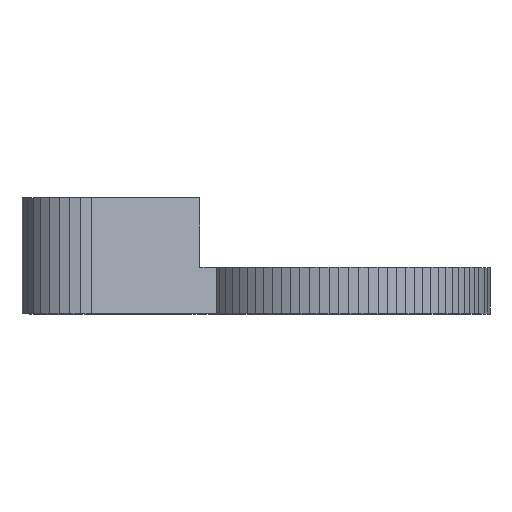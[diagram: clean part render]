
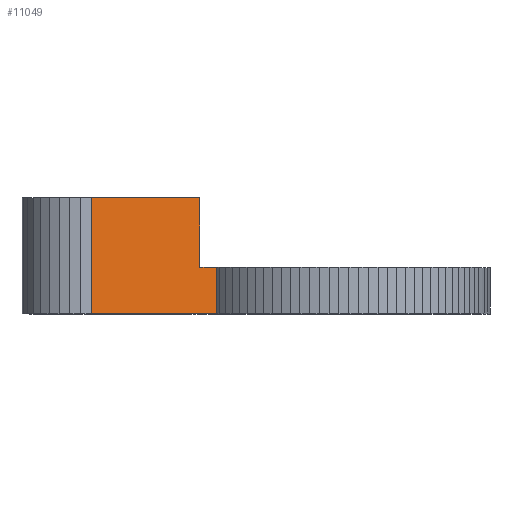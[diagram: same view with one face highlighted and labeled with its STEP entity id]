
A CAD part, top view. The second image highlights one B-rep face of the part: STEP entity #11049.
In plain terms, the highlighted planar face has unit normal (0.246, 0, 0.969).
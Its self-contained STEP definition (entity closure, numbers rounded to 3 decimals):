
#72 = PLANE('',#73);
#73 = AXIS2_PLACEMENT_3D('',#74,#75,#76);
#74 = CARTESIAN_POINT('',(62.285,-55.8,-226.262));
#75 = DIRECTION('',(0.,1.,0.));
#76 = DIRECTION('',(0.,-0.,1.));
#126 = PLANE('',#127);
#127 = AXIS2_PLACEMENT_3D('',#128,#129,#130);
#128 = CARTESIAN_POINT('',(62.285,-45.8,-226.262));
#129 = DIRECTION('',(0.,1.,0.));
#130 = DIRECTION('',(0.,-0.,1.));
#1784 = VERTEX_POINT('',#1785);
#1785 = CARTESIAN_POINT('',(47.058,-45.8,-210.015));
#1798 = PLANE('',#1799);
#1799 = AXIS2_PLACEMENT_3D('',#1800,#1801,#1802);
#1800 = CARTESIAN_POINT('',(47.058,-30.8,-210.015));
#1801 = DIRECTION('',(0.849,0.,-0.528));
#1802 = DIRECTION('',(-0.528,0.,-0.849));
#1809 = EDGE_CURVE('',#1784,#1810,#1812,.T.);
#1810 = VERTEX_POINT('',#1811);
#1811 = CARTESIAN_POINT('',(50.697,-45.8,-210.939));
#1812 = SURFACE_CURVE('',#1813,(#1817,#1824),.PCURVE_S1.);
#1813 = LINE('',#1814,#1815);
#1814 = CARTESIAN_POINT('',(23.738,-45.8,-204.092));
#1815 = VECTOR('',#1816,1.);
#1816 = DIRECTION('',(0.969,0.,-0.246));
#1817 = PCURVE('',#126,#1818);
#1818 = DEFINITIONAL_REPRESENTATION('',(#1819),#1823);
#1819 = LINE('',#1820,#1821);
#1820 = CARTESIAN_POINT('',(22.17,-38.547));
#1821 = VECTOR('',#1822,1.);
#1822 = DIRECTION('',(-0.246,0.969));
#1823 = ( GEOMETRIC_REPRESENTATION_CONTEXT(2) 
PARAMETRIC_REPRESENTATION_CONTEXT() REPRESENTATION_CONTEXT('2D SPACE',''
  ) );
#1824 = PCURVE('',#1825,#1830);
#1825 = PLANE('',#1826);
#1826 = AXIS2_PLACEMENT_3D('',#1827,#1828,#1829);
#1827 = CARTESIAN_POINT('',(23.738,-45.8,-204.092));
#1828 = DIRECTION('',(0.246,0.,0.969));
#1829 = DIRECTION('',(0.969,0.,-0.246));
#1830 = DEFINITIONAL_REPRESENTATION('',(#1831),#1835);
#1831 = LINE('',#1832,#1833);
#1832 = CARTESIAN_POINT('',(0.,0.));
#1833 = VECTOR('',#1834,1.);
#1834 = DIRECTION('',(1.,0.));
#1835 = ( GEOMETRIC_REPRESENTATION_CONTEXT(2) 
PARAMETRIC_REPRESENTATION_CONTEXT() REPRESENTATION_CONTEXT('2D SPACE',''
  ) );
#1853 = PLANE('',#1854);
#1854 = AXIS2_PLACEMENT_3D('',#1855,#1856,#1857);
#1855 = CARTESIAN_POINT('',(50.697,-45.8,-210.939));
#1856 = DIRECTION('',(-0.813,0.,0.582));
#1857 = DIRECTION('',(0.582,0.,0.813));
#6886 = VERTEX_POINT('',#6887);
#6887 = CARTESIAN_POINT('',(23.738,-55.8,-204.092));
#6901 = PLANE('',#6902);
#6902 = AXIS2_PLACEMENT_3D('',#6903,#6904,#6905);
#6903 = CARTESIAN_POINT('',(21.413,-45.8,-203.74));
#6904 = DIRECTION('',(0.15,0.,0.989));
#6905 = DIRECTION('',(0.989,0.,-0.15));
#6913 = EDGE_CURVE('',#6886,#6914,#6916,.T.);
#6914 = VERTEX_POINT('',#6915);
#6915 = CARTESIAN_POINT('',(50.697,-55.8,-210.939));
#6916 = SURFACE_CURVE('',#6917,(#6921,#6928),.PCURVE_S1.);
#6917 = LINE('',#6918,#6919);
#6918 = CARTESIAN_POINT('',(23.738,-55.8,-204.092));
#6919 = VECTOR('',#6920,1.);
#6920 = DIRECTION('',(0.969,0.,-0.246));
#6921 = PCURVE('',#72,#6922);
#6922 = DEFINITIONAL_REPRESENTATION('',(#6923),#6927);
#6923 = LINE('',#6924,#6925);
#6924 = CARTESIAN_POINT('',(22.17,-38.547));
#6925 = VECTOR('',#6926,1.);
#6926 = DIRECTION('',(-0.246,0.969));
#6927 = ( GEOMETRIC_REPRESENTATION_CONTEXT(2) 
PARAMETRIC_REPRESENTATION_CONTEXT() REPRESENTATION_CONTEXT('2D SPACE',''
  ) );
#6928 = PCURVE('',#1825,#6929);
#6929 = DEFINITIONAL_REPRESENTATION('',(#6930),#6934);
#6930 = LINE('',#6931,#6932);
#6931 = CARTESIAN_POINT('',(0.,-10.));
#6932 = VECTOR('',#6933,1.);
#6933 = DIRECTION('',(1.,0.));
#6934 = ( GEOMETRIC_REPRESENTATION_CONTEXT(2) 
PARAMETRIC_REPRESENTATION_CONTEXT() REPRESENTATION_CONTEXT('2D SPACE',''
  ) );
#11026 = EDGE_CURVE('',#1810,#6914,#11027,.T.);
#11027 = SURFACE_CURVE('',#11028,(#11032,#11039),.PCURVE_S1.);
#11028 = LINE('',#11029,#11030);
#11029 = CARTESIAN_POINT('',(50.697,-45.8,-210.939));
#11030 = VECTOR('',#11031,1.);
#11031 = DIRECTION('',(0.,-1.,0.));
#11032 = PCURVE('',#1853,#11033);
#11033 = DEFINITIONAL_REPRESENTATION('',(#11034),#11038);
#11034 = LINE('',#11035,#11036);
#11035 = CARTESIAN_POINT('',(0.,0.));
#11036 = VECTOR('',#11037,1.);
#11037 = DIRECTION('',(0.,-1.));
#11038 = ( GEOMETRIC_REPRESENTATION_CONTEXT(2) 
PARAMETRIC_REPRESENTATION_CONTEXT() REPRESENTATION_CONTEXT('2D SPACE',''
  ) );
#11039 = PCURVE('',#1825,#11040);
#11040 = DEFINITIONAL_REPRESENTATION('',(#11041),#11045);
#11041 = LINE('',#11042,#11043);
#11042 = CARTESIAN_POINT('',(27.815,0.));
#11043 = VECTOR('',#11044,1.);
#11044 = DIRECTION('',(0.,-1.));
#11045 = ( GEOMETRIC_REPRESENTATION_CONTEXT(2) 
PARAMETRIC_REPRESENTATION_CONTEXT() REPRESENTATION_CONTEXT('2D SPACE',''
  ) );
#11049 = ADVANCED_FACE('',(#11050),#1825,.T.);
#11050 = FACE_BOUND('',#11051,.T.);
#11051 = EDGE_LOOP('',(#11052,#11053,#11076,#11104,#11125,#11126));
#11052 = ORIENTED_EDGE('',*,*,#1809,.F.);
#11053 = ORIENTED_EDGE('',*,*,#11054,.F.);
#11054 = EDGE_CURVE('',#11055,#1784,#11057,.T.);
#11055 = VERTEX_POINT('',#11056);
#11056 = CARTESIAN_POINT('',(47.058,-30.8,-210.015));
#11057 = SURFACE_CURVE('',#11058,(#11062,#11069),.PCURVE_S1.);
#11058 = LINE('',#11059,#11060);
#11059 = CARTESIAN_POINT('',(47.058,-30.8,-210.015));
#11060 = VECTOR('',#11061,1.);
#11061 = DIRECTION('',(0.,-1.,0.));
#11062 = PCURVE('',#1825,#11063);
#11063 = DEFINITIONAL_REPRESENTATION('',(#11064),#11068);
#11064 = LINE('',#11065,#11066);
#11065 = CARTESIAN_POINT('',(24.059,15.));
#11066 = VECTOR('',#11067,1.);
#11067 = DIRECTION('',(0.,-1.));
#11068 = ( GEOMETRIC_REPRESENTATION_CONTEXT(2) 
PARAMETRIC_REPRESENTATION_CONTEXT() REPRESENTATION_CONTEXT('2D SPACE',''
  ) );
#11069 = PCURVE('',#1798,#11070);
#11070 = DEFINITIONAL_REPRESENTATION('',(#11071),#11075);
#11071 = LINE('',#11072,#11073);
#11072 = CARTESIAN_POINT('',(0.,0.));
#11073 = VECTOR('',#11074,1.);
#11074 = DIRECTION('',(-0.,-1.));
#11075 = ( GEOMETRIC_REPRESENTATION_CONTEXT(2) 
PARAMETRIC_REPRESENTATION_CONTEXT() REPRESENTATION_CONTEXT('2D SPACE',''
  ) );
#11076 = ORIENTED_EDGE('',*,*,#11077,.F.);
#11077 = EDGE_CURVE('',#11078,#11055,#11080,.T.);
#11078 = VERTEX_POINT('',#11079);
#11079 = CARTESIAN_POINT('',(23.738,-30.8,-204.092));
#11080 = SURFACE_CURVE('',#11081,(#11085,#11092),.PCURVE_S1.);
#11081 = LINE('',#11082,#11083);
#11082 = CARTESIAN_POINT('',(23.738,-30.8,-204.092));
#11083 = VECTOR('',#11084,1.);
#11084 = DIRECTION('',(0.969,0.,-0.246));
#11085 = PCURVE('',#1825,#11086);
#11086 = DEFINITIONAL_REPRESENTATION('',(#11087),#11091);
#11087 = LINE('',#11088,#11089);
#11088 = CARTESIAN_POINT('',(0.,15.));
#11089 = VECTOR('',#11090,1.);
#11090 = DIRECTION('',(1.,0.));
#11091 = ( GEOMETRIC_REPRESENTATION_CONTEXT(2) 
PARAMETRIC_REPRESENTATION_CONTEXT() REPRESENTATION_CONTEXT('2D SPACE',''
  ) );
#11092 = PCURVE('',#11093,#11098);
#11093 = PLANE('',#11094);
#11094 = AXIS2_PLACEMENT_3D('',#11095,#11096,#11097);
#11095 = CARTESIAN_POINT('',(28.241,-30.8,-217.62));
#11096 = DIRECTION('',(0.,1.,0.));
#11097 = DIRECTION('',(0.,-0.,1.));
#11098 = DEFINITIONAL_REPRESENTATION('',(#11099),#11103);
#11099 = LINE('',#11100,#11101);
#11100 = CARTESIAN_POINT('',(13.527,-4.503));
#11101 = VECTOR('',#11102,1.);
#11102 = DIRECTION('',(-0.246,0.969));
#11103 = ( GEOMETRIC_REPRESENTATION_CONTEXT(2) 
PARAMETRIC_REPRESENTATION_CONTEXT() REPRESENTATION_CONTEXT('2D SPACE',''
  ) );
#11104 = ORIENTED_EDGE('',*,*,#11105,.T.);
#11105 = EDGE_CURVE('',#11078,#6886,#11106,.T.);
#11106 = SURFACE_CURVE('',#11107,(#11111,#11118),.PCURVE_S1.);
#11107 = LINE('',#11108,#11109);
#11108 = CARTESIAN_POINT('',(23.738,-30.8,-204.092));
#11109 = VECTOR('',#11110,1.);
#11110 = DIRECTION('',(0.,-1.,0.));
#11111 = PCURVE('',#1825,#11112);
#11112 = DEFINITIONAL_REPRESENTATION('',(#11113),#11117);
#11113 = LINE('',#11114,#11115);
#11114 = CARTESIAN_POINT('',(0.,15.));
#11115 = VECTOR('',#11116,1.);
#11116 = DIRECTION('',(0.,-1.));
#11117 = ( GEOMETRIC_REPRESENTATION_CONTEXT(2) 
PARAMETRIC_REPRESENTATION_CONTEXT() REPRESENTATION_CONTEXT('2D SPACE',''
  ) );
#11118 = PCURVE('',#6901,#11119);
#11119 = DEFINITIONAL_REPRESENTATION('',(#11120),#11124);
#11120 = LINE('',#11121,#11122);
#11121 = CARTESIAN_POINT('',(2.352,15.));
#11122 = VECTOR('',#11123,1.);
#11123 = DIRECTION('',(0.,-1.));
#11124 = ( GEOMETRIC_REPRESENTATION_CONTEXT(2) 
PARAMETRIC_REPRESENTATION_CONTEXT() REPRESENTATION_CONTEXT('2D SPACE',''
  ) );
#11125 = ORIENTED_EDGE('',*,*,#6913,.T.);
#11126 = ORIENTED_EDGE('',*,*,#11026,.F.);
